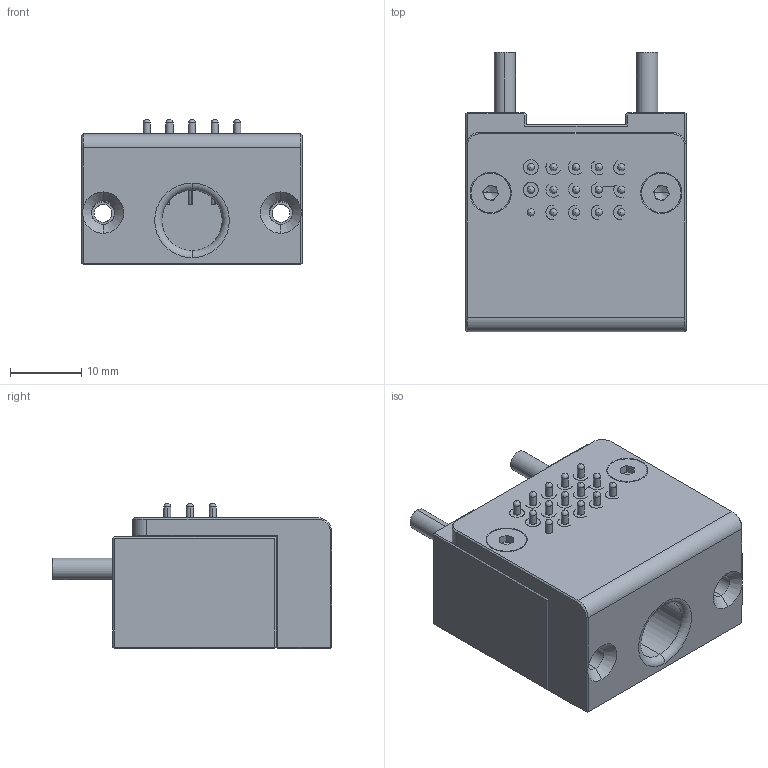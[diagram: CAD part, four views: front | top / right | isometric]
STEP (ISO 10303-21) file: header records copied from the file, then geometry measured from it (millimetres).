
FILE_DESCRIPTION (( 'STEP AP203' ), '1' );
FILE_NAME ('QCSM-15G.STEP', '2023-12-27T09:05:38', ( '微软用户' ), ( '微软中国' ), 'SwSTEP 2.0', 'SolidWorks 2018', '' );
FILE_SCHEMA (( 'CONFIG_CONTROL_DESIGN' ));
Length unit declared in the file: millimetre
Products named in the file (1): QCSM-15G
Bounding box: 31 x 39.3 x 20.4 mm (x, y, z)
Surface area: 8794.3 mm2 (no closed solid volume)
Topology: 0 solids, 8 shells, 511 faces, 1292 edges, 812 vertices
Faces by surface type: plane 225, cylinder 209, cone 46, sphere 15, torus 10, bspline 6
Entity records: 16649 total; most frequent: CARTESIAN_POINT 5053, ORIENTED_EDGE 2450, DIRECTION 2268, EDGE_CURVE 1239, AXIS2_PLACEMENT_3D 914, VERTEX_POINT 782, EDGE_LOOP 582, FACE_OUTER_BOUND 511
